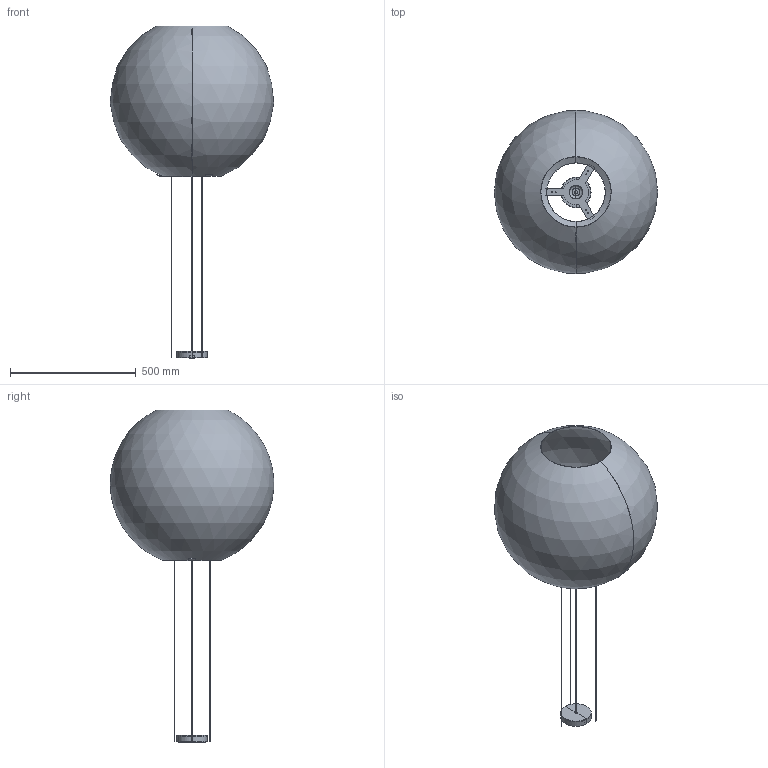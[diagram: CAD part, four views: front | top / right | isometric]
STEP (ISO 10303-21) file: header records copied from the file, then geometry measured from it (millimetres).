
FILE_DESCRIPTION(/* description */ (''),/* implementation_level */ '2;1');
FILE_NAME(/* name */ '20407.step',/* time_stamp */ '2024-03-28T11:46:41+01:00',/* author */ ('RenataManzini'),/* organization */ (''),/* preprocessor_version */ 'ST-DEVELOPER v20',/* originating_system */ 'AutoCAD Mechanical',/* authorisation */ '');
FILE_SCHEMA (('AUTOMOTIVE_DESIGN { 1 0 10303 214 3 1 1 }'));
Length unit declared in the file: millimetre
Products named in the file (4): Product; Pieza_20407_SL01 - Lamp Holder-709306-_3D_; Pieza_20407_SL02 - Lamp Holder-706358-_3D_; Pieza_20407_SC - Lamp Holder-711677-_3D_
Assembly tree (3 placements, depth 2):
  Product
    Pieza_20407_SL01 - Lamp Holder-709306-_3D_
    Pieza_20407_SL02 - Lamp Holder-706358-_3D_
    Pieza_20407_SC - Lamp Holder-711677-_3D_
Bounding box: 649.5 x 649.38 x 1319.54 mm (x, y, z)
Volume: 1359251.6 mm3; surface area: 2569916.9 mm2
Topology: 9 solids, 9 shells, 136 faces, 305 edges, 186 vertices
Faces by surface type: plane 61, cylinder 57, cone 10, torus 4, sphere 4
Entity records: 5252 total; most frequent: CARTESIAN_POINT 2030, DIRECTION 699, ORIENTED_EDGE 610, EDGE_CURVE 305, AXIS2_PLACEMENT_3D 267, VERTEX_POINT 186, LINE 165, VECTOR 165
